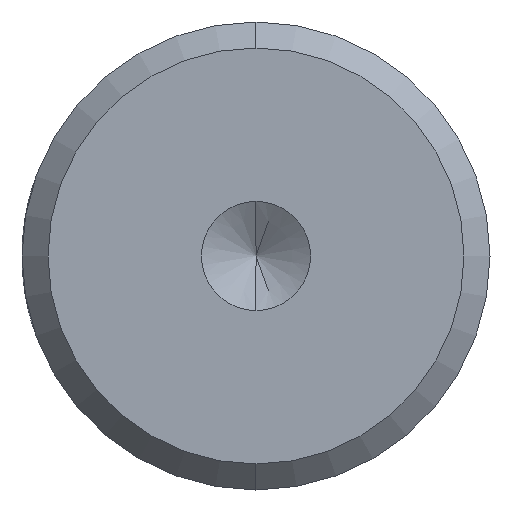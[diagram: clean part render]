
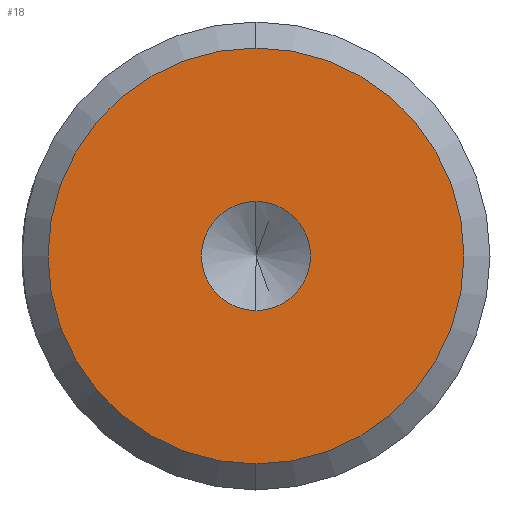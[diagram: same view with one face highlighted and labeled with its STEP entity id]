
A CAD part, left-side view. The second image highlights one B-rep face of the part: STEP entity #18.
In plain terms, the highlighted planar face has unit normal (-1, 0, 0).
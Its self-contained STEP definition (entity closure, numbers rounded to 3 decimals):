
#14 = EDGE_CURVE ( 'NONE', #147, #164, #270, .T. ) ;
#18 = ADVANCED_FACE ( 'NONE', ( #319, #263 ), #282, .F. ) ;
#19 = ORIENTED_EDGE ( 'NONE', *, *, #145, .T. ) ;
#24 = EDGE_CURVE ( 'NONE', #125, #113, #301, .T. ) ;
#27 = ORIENTED_EDGE ( 'NONE', *, *, #14, .T. ) ;
#52 = ORIENTED_EDGE ( 'NONE', *, *, #24, .F. ) ;
#53 = EDGE_LOOP ( 'NONE', ( #52, #177 ) ) ;
#113 = VERTEX_POINT ( 'NONE', #514 ) ;
#125 = VERTEX_POINT ( 'NONE', #612 ) ;
#130 = EDGE_CURVE ( 'NONE', #113, #125, #551, .T. ) ;
#145 = EDGE_CURVE ( 'NONE', #164, #147, #728, .T. ) ;
#147 = VERTEX_POINT ( 'NONE', #725 ) ;
#164 = VERTEX_POINT ( 'NONE', #711 ) ;
#177 = ORIENTED_EDGE ( 'NONE', *, *, #130, .F. ) ;
#184 = EDGE_LOOP ( 'NONE', ( #27, #19 ) ) ;
#259 = DIRECTION ( 'NONE',  ( 0., 0., -1. ) ) ;
#260 = DIRECTION ( 'NONE',  ( -1., 0., 0. ) ) ;
#261 = CARTESIAN_POINT ( 'NONE',  ( 0., 0., 0. ) ) ;
#263 = FACE_OUTER_BOUND ( 'NONE', #184, .T. ) ;
#264 = AXIS2_PLACEMENT_3D ( 'NONE', #317, #316, #308 ) ;
#270 = CIRCLE ( 'NONE', #405, 8. ) ;
#282 = PLANE ( 'NONE',  #264 ) ;
#298 = DIRECTION ( 'NONE',  ( 0., 0., 1. ) ) ;
#299 = DIRECTION ( 'NONE',  ( -1., 0., 0. ) ) ;
#300 = CARTESIAN_POINT ( 'NONE',  ( 0., 0., 0. ) ) ;
#301 = CIRCLE ( 'NONE', #302, 2.1 ) ;
#302 = AXIS2_PLACEMENT_3D ( 'NONE', #300, #299, #298 ) ;
#308 = DIRECTION ( 'NONE',  ( 0., 0., -1. ) ) ;
#316 = DIRECTION ( 'NONE',  ( 1., 0., 0. ) ) ;
#317 = CARTESIAN_POINT ( 'NONE',  ( 0., 9., 0. ) ) ;
#319 = FACE_BOUND ( 'NONE', #53, .T. ) ;
#405 = AXIS2_PLACEMENT_3D ( 'NONE', #261, #260, #259 ) ;
#514 = CARTESIAN_POINT ( 'NONE',  ( 0., 0., -2.1 ) ) ;
#544 = DIRECTION ( 'NONE',  ( 0., 0., 1. ) ) ;
#545 = DIRECTION ( 'NONE',  ( -1., 0., 0. ) ) ;
#546 = AXIS2_PLACEMENT_3D ( 'NONE', #550, #545, #544 ) ;
#550 = CARTESIAN_POINT ( 'NONE',  ( 0., 0., 0. ) ) ;
#551 = CIRCLE ( 'NONE', #546, 2.1 ) ;
#612 = CARTESIAN_POINT ( 'NONE',  ( 0., 0., 2.1 ) ) ;
#677 = CARTESIAN_POINT ( 'NONE',  ( 0., 0., 0. ) ) ;
#705 = AXIS2_PLACEMENT_3D ( 'NONE', #677, #799, #798 ) ;
#711 = CARTESIAN_POINT ( 'NONE',  ( 0., 0., 8. ) ) ;
#725 = CARTESIAN_POINT ( 'NONE',  ( 0., 0., -8. ) ) ;
#728 = CIRCLE ( 'NONE', #705, 8. ) ;
#798 = DIRECTION ( 'NONE',  ( 0., 0., -1. ) ) ;
#799 = DIRECTION ( 'NONE',  ( -1., 0., 0. ) ) ;
